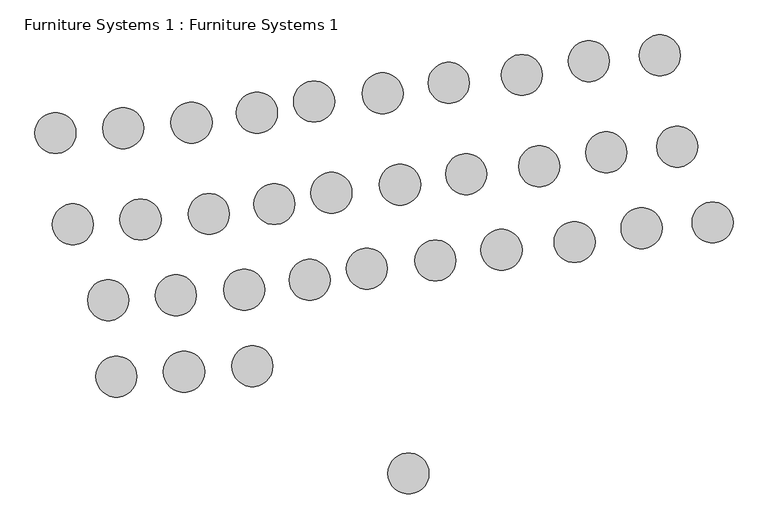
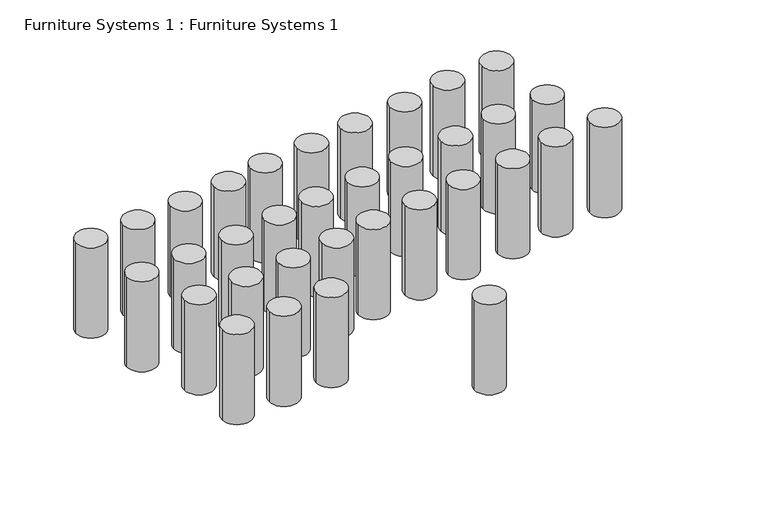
"""IFC4 building model written with IfcOpenShell, lengths in millimetres: furniture geometry, Furniture Systems 1 : Furniture Systems 1."""

import ifcopenshell
import ifcopenshell.guid

model = None  # the IFC model being written
_history = None  # IfcOwnerHistory: only IFC2X3 demands one
_inside = {}  # id of a spatial element -> (the spatial element, [elements in it])
_under = {}  # id of a project, library or spatial element -> (it, [spatial elements below it])
_declared = {}  # id of a project -> (the project, [libraries it declares])
_typed = {}  # id of a type object -> (the type object, [elements of that type])
_made_of = {}  # id of a material, layer set ... -> (it, [elements and type objects made of it])


def new_model(schema):
    """Start an empty IFC model of exactly this schema.

    Asked for "IFC4X3", IfcOpenShell would pick the latest addendum, in which some entities
    have other attributes; the version numbers below select the first issue.
    IFC2X3 requires an IfcOwnerHistory on every rooted entity: one is made here for all.
    """
    global model, _history
    if schema == "IFC4X3":
        model = ifcopenshell.file(schema_version=(4, 3, 0, 0))
    else:
        model = ifcopenshell.file(schema=schema)
    _inside.clear()
    _under.clear()
    _declared.clear()
    _typed.clear()
    _made_of.clear()
    _history = None
    if model.schema == "IFC2X3":
        org = make("IfcOrganization", Name="unknown")
        user = make(
            "IfcPersonAndOrganization",
            ThePerson=make("IfcPerson", FamilyName="unknown"),
            TheOrganization=org,
        )
        app = make(
            "IfcApplication",
            ApplicationDeveloper=org,
            Version="unknown",
            ApplicationFullName="unknown",
            ApplicationIdentifier="unknown",
        )
        _history = make(
            "IfcOwnerHistory",
            OwningUser=user,
            OwningApplication=app,
            ChangeAction="ADDED",
            CreationDate=0,
        )
    return model


def make(cls, **values):
    """One entity of the class cls with the attributes given. An attribute that is None is left unset."""
    return model.create_entity(
        cls, **{name: value for name, value in values.items() if value is not None}
    )


def rooted(cls, **values):
    """An entity with a GlobalId (a new one), such as an element, a storey or a relation."""
    return make(cls, GlobalId=ifcopenshell.guid.new(), OwnerHistory=_history, **values)


def si_unit(unit_type, name, prefix=None):
    """IfcSIUnit, for example si_unit("LENGTHUNIT", "METRE", prefix="MILLI")."""
    return make("IfcSIUnit", UnitType=unit_type, Prefix=prefix, Name=name)


def assignment(units):
    """IfcUnitAssignment: the units of a project."""
    return None if units is None else make("IfcUnitAssignment", Units=units)


def point(xyz):
    """IfcCartesianPoint."""
    return None if xyz is None else make("IfcCartesianPoint", Coordinates=xyz)


def direction(xyz):
    """IfcDirection."""
    return None if xyz is None else make("IfcDirection", DirectionRatios=xyz)


def frame(location, z_axis=None, x_axis=None):
    """IfcAxis2Placement3D, a coordinate frame: its origin and axes. An axis left out is left unset."""
    return make(
        "IfcAxis2Placement3D",
        Location=point(location),
        Axis=direction(z_axis),
        RefDirection=direction(x_axis),
    )


def frame_2d(location, x_axis=None):
    """IfcAxis2Placement2D, a coordinate frame in the plane: its origin and x axis."""
    return make(
        "IfcAxis2Placement2D", Location=point(location), RefDirection=direction(x_axis)
    )


def origin():
    """The frame at (0, 0, 0) with its axes left unset."""
    return frame((0.0, 0.0, 0.0))


def origin_with_axes():
    """The frame at (0, 0, 0) with the z axis (0, 0, 1) and the x axis (1, 0, 0) written out."""
    return frame((0.0, 0.0, 0.0), z_axis=(0.0, 0.0, 1.0), x_axis=(1.0, 0.0, 0.0))


def place(relative_to, where):
    """IfcLocalPlacement: puts the frame where relative to a parent placement (None: the world)."""
    return make(
        "IfcLocalPlacement", PlacementRelTo=relative_to, RelativePlacement=where
    )


def context(
    kind, dimensions, precision=None, world=None, true_north=None, identifier=None
):
    """IfcGeometricRepresentationContext, for example the 3D "Model" context."""
    return make(
        "IfcGeometricRepresentationContext",
        ContextIdentifier=identifier,
        ContextType=kind,
        CoordinateSpaceDimension=dimensions,
        Precision=precision,
        WorldCoordinateSystem=world,
        TrueNorth=true_north,
    )


def project(units=None, contexts=None):
    """IfcProject with its units and contexts."""
    return rooted(
        "IfcProject",
        Name="project",
        RepresentationContexts=contexts,
        UnitsInContext=assignment(units),
    )


def spatial(cls, under=None, at=None, **own):
    """A site, building, storey or space (cls), placed at a placement, below another one or the project."""
    s = rooted(cls, ObjectPlacement=at, **own)
    if under is not None:
        _under.setdefault(under.id(), (under, []))[1].append(s)
    return s


def circle_curve(where, radius):
    """IfcCircle in the frame where."""
    return make("IfcCircle", Position=where, Radius=radius)


def trimmed(basis, trim1, trim2, sense, master):
    """IfcTrimmedCurve: the piece of a basis curve between two trims."""
    return make(
        "IfcTrimmedCurve",
        BasisCurve=basis,
        Trim1=trim1,
        Trim2=trim2,
        SenseAgreement=sense,
        MasterRepresentation=master,
    )


def segment(curve, same_sense, transition):
    """IfcCompositeCurveSegment."""
    return make(
        "IfcCompositeCurveSegment",
        Transition=transition,
        SameSense=same_sense,
        ParentCurve=curve,
    )


def composite_curve(segments, self_intersect=None):
    """IfcCompositeCurve: segments joined end to end."""
    return make("IfcCompositeCurve", Segments=segments, SelfIntersect=self_intersect)


def outline(outer, holes=None, kind="AREA"):
    """IfcArbitraryClosedProfileDef: a profile drawn as a closed curve; with holes, ...WithVoids."""
    if holes is None:
        return make("IfcArbitraryClosedProfileDef", ProfileType=kind, OuterCurve=outer)
    return make(
        "IfcArbitraryProfileDefWithVoids",
        ProfileType=kind,
        OuterCurve=outer,
        InnerCurves=holes,
    )


def extrude(swept, where, along, depth):
    """IfcExtrudedAreaSolid: the profile swept, set in the frame where, extruded along a direction by depth."""
    return make(
        "IfcExtrudedAreaSolid",
        SweptArea=swept,
        Position=where,
        ExtrudedDirection=direction(along),
        Depth=depth,
    )


def shape(context_of_items, identifier, shape_type, items):
    """IfcShapeRepresentation: the items that make up one representation, for example the "Body"."""
    return make(
        "IfcShapeRepresentation",
        ContextOfItems=context_of_items,
        RepresentationIdentifier=identifier,
        RepresentationType=shape_type,
        Items=items,
    )


def source(mapping_origin, context_of_items, identifier, shape_type, items):
    """IfcRepresentationMap: a shape defined once, which mapped items show again and again."""
    return make(
        "IfcRepresentationMap",
        MappingOrigin=mapping_origin,
        MappedRepresentation=shape(context_of_items, identifier, shape_type, items),
    )


def transform(
    local_origin,
    x_axis=None,
    y_axis=None,
    z_axis=None,
    scale=None,
    scale2=None,
    scale3=None,
    uniform=True,
):
    """IfcCartesianTransformationOperator3D, or its non-uniform kind. x_axis, y_axis, z_axis: its Axis1, 2, 3."""
    if uniform:
        return make(
            "IfcCartesianTransformationOperator3D",
            Axis1=direction(x_axis),
            Axis2=direction(y_axis),
            LocalOrigin=point(local_origin),
            Scale=scale,
            Axis3=direction(z_axis),
        )
    return make(
        "IfcCartesianTransformationOperator3DnonUniform",
        Axis1=direction(x_axis),
        Axis2=direction(y_axis),
        LocalOrigin=point(local_origin),
        Scale=scale,
        Axis3=direction(z_axis),
        Scale2=scale2,
        Scale3=scale3,
    )


def mapped(mapping_source, mapping_target):
    """IfcMappedItem: shows the shape of a source again, moved by a transform."""
    return make(
        "IfcMappedItem", MappingSource=mapping_source, MappingTarget=mapping_target
    )


def made_of(thing, what):
    """Note that an element or type object is made of a material, layer set ...; save() writes the relation."""
    if what is not None:
        _made_of.setdefault(what.id(), (what, []))[1].append(thing)
    return thing


def element(
    cls,
    number,
    at=None,
    inside=None,
    cuts=None,
    type_object=None,
    material=None,
    context=None,
    identifier="Body",
    shape_type=None,
    held_by="IfcProductDefinitionShape",
    body=None,
    shapes=None,
    **own,
):
    """One element of the class cls, such as IfcWall. Its Tag is "e" and its number.

    at: its placement. inside: the storey or other place that contains it. cuts: it is an
    opening in that element (IfcRelVoidsElement). A single representation is given by context,
    identifier, shape_type and body (its items); several are given by shapes. held_by: the class
    of the entity that holds the representations. save() writes the other relations.
    """
    e = rooted(cls, Tag="e%d" % number, ObjectPlacement=at, **own)
    if body is not None:
        shapes = [shape(context, identifier, shape_type, body)]
    if shapes is not None:
        e.Representation = make(held_by, Representations=shapes)
    if inside is not None:
        _inside.setdefault(inside.id(), (inside, []))[1].append(e)
    if cuts is not None:
        rooted(
            "IfcRelVoidsElement", RelatingBuildingElement=cuts, RelatedOpeningElement=e
        )
    if type_object is not None:
        _typed.setdefault(type_object.id(), (type_object, []))[1].append(e)
    return made_of(e, material)


def aggregate(whole, parts):
    """IfcRelAggregates: a whole, such as a stair, and the parts it consists of."""
    return rooted("IfcRelAggregates", RelatingObject=whole, RelatedObjects=parts)


def save(model, path):
    """Write the relations noted so far, then the file.

    IfcRelAggregates (storeys below a building ...), IfcRelContainedInSpatialStructure (elements
    in a storey), IfcRelDefinesByType, IfcRelAssociatesMaterial and IfcRelDeclares: one each for
    every whole, place, type object, material and project.
    """
    for whole, parts in _under.values():
        aggregate(whole, parts)
    for where, things in _inside.values():
        rooted(
            "IfcRelContainedInSpatialStructure",
            RelatedElements=things,
            RelatingStructure=where,
        )
    for kind, things in _typed.values():
        rooted("IfcRelDefinesByType", RelatedObjects=things, RelatingType=kind)
    for what, things in _made_of.values():
        rooted("IfcRelAssociatesMaterial", RelatedObjects=things, RelatingMaterial=what)
    for by, libraries in _declared.values():
        rooted("IfcRelDeclares", RelatingContext=by, RelatedDefinitions=libraries)
    model.write(path)


def furniture_systems_1_furniture_systems_1_472282ec(model_context):
    return source(origin(), model_context, "Body", "SweptSolid", [
        extrude(outline(composite_curve([segment(trimmed(circle_curve(frame_2d((-5822.5054879, 595.2108195)), 177.8), [point((-6000.3054879, 595.2108195))], [point((-5644.7054879, 595.2108195))], False, "CARTESIAN"), True, "CONTINUOUS"), segment(trimmed(circle_curve(frame_2d((-5822.5054879, 595.2108195)), 177.8), [point((-5644.7054879, 595.2108195))], [point((-6000.3054879, 595.2108195))], False, "CARTESIAN"), True, "CONTINUOUS")], self_intersect=False)), origin_with_axes(), (0.0, 0.0, 1.0), 1138.8266738),
        extrude(outline(composite_curve([segment(trimmed(circle_curve(frame_2d((-7173.2621178, 1523.4665813)), 177.8), [point((-7351.0621178, 1523.4665813))], [point((-6995.4621178, 1523.4665813))], False, "CARTESIAN"), True, "CONTINUOUS"), segment(trimmed(circle_curve(frame_2d((-7173.2621178, 1523.4665813)), 177.8), [point((-6995.4621178, 1523.4665813))], [point((-7351.0621178, 1523.4665813))], False, "CARTESIAN"), True, "CONTINUOUS")], self_intersect=False)), origin_with_axes(), (0.0, 0.0, 1.0), 1138.8266738),
        extrude(outline(composite_curve([segment(trimmed(circle_curve(frame_2d((-7764.9644496, 1475.3818843)), 177.8), [point((-7942.7644496, 1475.3818843))], [point((-7587.1644496, 1475.3818843))], False, "CARTESIAN"), True, "CONTINUOUS"), segment(trimmed(circle_curve(frame_2d((-7764.9644496, 1475.3818843)), 177.8), [point((-7587.1644496, 1475.3818843))], [point((-7942.7644496, 1475.3818843))], False, "CARTESIAN"), True, "CONTINUOUS")], self_intersect=False)), origin_with_axes(), (0.0, 0.0, 1.0), 1138.8266738),
        extrude(outline(composite_curve([segment(trimmed(circle_curve(frame_2d((-8350.6310546, 1433.3329139)), 177.8), [point((-8528.4310546, 1433.3329139))], [point((-8172.8310546, 1433.3329139))], False, "CARTESIAN"), True, "CONTINUOUS"), segment(trimmed(circle_curve(frame_2d((-8350.6310546, 1433.3329139)), 177.8), [point((-8172.8310546, 1433.3329139))], [point((-8528.4310546, 1433.3329139))], False, "CARTESIAN"), True, "CONTINUOUS")], self_intersect=False)), origin_with_axes(), (0.0, 0.0, 1.0), 1138.8266738),
        extrude(outline(composite_curve([segment(trimmed(circle_curve(frame_2d((-3190.2941901, 2767.4379649)), 177.8), [point((-3368.0941901, 2767.4379649))], [point((-3012.4941901, 2767.4379649))], False, "CARTESIAN"), True, "CONTINUOUS"), segment(trimmed(circle_curve(frame_2d((-3190.2941901, 2767.4379649)), 177.8), [point((-3012.4941901, 2767.4379649))], [point((-3368.0941901, 2767.4379649))], False, "CARTESIAN"), True, "CONTINUOUS")], self_intersect=False)), origin_with_axes(), (0.0, 0.0, 1.0), 1138.8266738),
        extrude(outline(composite_curve([segment(trimmed(circle_curve(frame_2d((-3804.5221606, 2717.7359997)), 177.8), [point((-3982.3221606, 2717.7359997))], [point((-3626.7221606, 2717.7359997))], False, "CARTESIAN"), True, "CONTINUOUS"), segment(trimmed(circle_curve(frame_2d((-3804.5221606, 2717.7359997)), 177.8), [point((-3626.7221606, 2717.7359997))], [point((-3982.3221606, 2717.7359997))], False, "CARTESIAN"), True, "CONTINUOUS")], self_intersect=False)), origin_with_axes(), (0.0, 0.0, 1.0), 1138.8266738),
        extrude(outline(composite_curve([segment(trimmed(circle_curve(frame_2d((-4384.5863846, 2597.6559281)), 177.8), [point((-4562.3863846, 2597.6559281))], [point((-4206.7863846, 2597.6559281))], False, "CARTESIAN"), True, "CONTINUOUS"), segment(trimmed(circle_curve(frame_2d((-4384.5863846, 2597.6559281)), 177.8), [point((-4206.7863846, 2597.6559281))], [point((-4562.3863846, 2597.6559281))], False, "CARTESIAN"), True, "CONTINUOUS")], self_intersect=False)), origin_with_axes(), (0.0, 0.0, 1.0), 1138.8266738),
        extrude(outline(composite_curve([segment(trimmed(circle_curve(frame_2d((-5016.9215351, 2529.8467828)), 177.8), [point((-5194.7215351, 2529.8467828))], [point((-4839.1215351, 2529.8467828))], False, "CARTESIAN"), True, "CONTINUOUS"), segment(trimmed(circle_curve(frame_2d((-5016.9215351, 2529.8467828)), 177.8), [point((-4839.1215351, 2529.8467828))], [point((-5194.7215351, 2529.8467828))], False, "CARTESIAN"), True, "CONTINUOUS")], self_intersect=False)), origin_with_axes(), (0.0, 0.0, 1.0), 1138.8266738),
        extrude(outline(composite_curve([segment(trimmed(circle_curve(frame_2d((-5589.3327644, 2438.3280765)), 177.8), [point((-5767.1327644, 2438.3280765))], [point((-5411.5327644, 2438.3280765))], False, "CARTESIAN"), True, "CONTINUOUS"), segment(trimmed(circle_curve(frame_2d((-5589.3327644, 2438.3280765)), 177.8), [point((-5411.5327644, 2438.3280765))], [point((-5767.1327644, 2438.3280765))], False, "CARTESIAN"), True, "CONTINUOUS")], self_intersect=False)), origin_with_axes(), (0.0, 0.0, 1.0), 1138.8266738),
        extrude(outline(composite_curve([segment(trimmed(circle_curve(frame_2d((-6182.6523643, 2367.7177408)), 177.8), [point((-6360.4523643, 2367.7177408))], [point((-6004.8523643, 2367.7177408))], False, "CARTESIAN"), True, "CONTINUOUS"), segment(trimmed(circle_curve(frame_2d((-6182.6523643, 2367.7177408)), 177.8), [point((-6004.8523643, 2367.7177408))], [point((-6360.4523643, 2367.7177408))], False, "CARTESIAN"), True, "CONTINUOUS")], self_intersect=False)), origin_with_axes(), (0.0, 0.0, 1.0), 1138.8266738),
        extrude(outline(composite_curve([segment(trimmed(circle_curve(frame_2d((-6677.0324924, 2270.5966535)), 177.8), [point((-6854.8324924, 2270.5966535))], [point((-6499.2324924, 2270.5966535))], False, "CARTESIAN"), True, "CONTINUOUS"), segment(trimmed(circle_curve(frame_2d((-6677.0324924, 2270.5966535)), 177.8), [point((-6499.2324924, 2270.5966535))], [point((-6854.8324924, 2270.5966535))], False, "CARTESIAN"), True, "CONTINUOUS")], self_intersect=False)), origin_with_axes(), (0.0, 0.0, 1.0), 1138.8266738),
        extrude(outline(composite_curve([segment(trimmed(circle_curve(frame_2d((-7243.407995, 2185.1136739)), 177.8), [point((-7421.207995, 2185.1136739))], [point((-7065.607995, 2185.1136739))], False, "CARTESIAN"), True, "CONTINUOUS"), segment(trimmed(circle_curve(frame_2d((-7243.407995, 2185.1136739)), 177.8), [point((-7065.607995, 2185.1136739))], [point((-7421.207995, 2185.1136739))], False, "CARTESIAN"), True, "CONTINUOUS")], self_intersect=False)), origin_with_axes(), (0.0, 0.0, 1.0), 1138.8266738),
        extrude(outline(composite_curve([segment(trimmed(circle_curve(frame_2d((-7835.1103268, 2137.0289768)), 177.8), [point((-8012.9103268, 2137.0289768))], [point((-7657.3103268, 2137.0289768))], False, "CARTESIAN"), True, "CONTINUOUS"), segment(trimmed(circle_curve(frame_2d((-7835.1103268, 2137.0289768)), 177.8), [point((-7657.3103268, 2137.0289768))], [point((-8012.9103268, 2137.0289768))], False, "CARTESIAN"), True, "CONTINUOUS")], self_intersect=False)), origin_with_axes(), (0.0, 0.0, 1.0), 1138.8266738),
        extrude(outline(composite_curve([segment(trimmed(circle_curve(frame_2d((-8420.7769319, 2094.9800065)), 177.8), [point((-8598.5769319, 2094.9800065))], [point((-8242.9769319, 2094.9800065))], False, "CARTESIAN"), True, "CONTINUOUS"), segment(trimmed(circle_curve(frame_2d((-8420.7769319, 2094.9800065)), 177.8), [point((-8242.9769319, 2094.9800065))], [point((-8598.5769319, 2094.9800065))], False, "CARTESIAN"), True, "CONTINUOUS")], self_intersect=False)), origin_with_axes(), (0.0, 0.0, 1.0), 1138.8266738),
        extrude(outline(composite_curve([segment(trimmed(circle_curve(frame_2d((-3496.1506392, 3423.3665618)), 177.8), [point((-3673.9506392, 3423.3665618))], [point((-3318.3506392, 3423.3665618))], False, "CARTESIAN"), True, "CONTINUOUS"), segment(trimmed(circle_curve(frame_2d((-3496.1506392, 3423.3665618)), 177.8), [point((-3318.3506392, 3423.3665618))], [point((-3673.9506392, 3423.3665618))], False, "CARTESIAN"), True, "CONTINUOUS")], self_intersect=False)), origin_with_axes(), (0.0, 0.0, 1.0), 1138.8266738),
        extrude(outline(composite_curve([segment(trimmed(circle_curve(frame_2d((-4110.3786096, 3373.6645966)), 177.8), [point((-4288.1786096, 3373.6645966))], [point((-3932.5786096, 3373.6645966))], False, "CARTESIAN"), True, "CONTINUOUS"), segment(trimmed(circle_curve(frame_2d((-4110.3786096, 3373.6645966)), 177.8), [point((-3932.5786096, 3373.6645966))], [point((-4288.1786096, 3373.6645966))], False, "CARTESIAN"), True, "CONTINUOUS")], self_intersect=False)), origin_with_axes(), (0.0, 0.0, 1.0), 1138.8266738),
        extrude(outline(composite_curve([segment(trimmed(circle_curve(frame_2d((-4690.4428337, 3253.584525)), 177.8), [point((-4868.2428337, 3253.584525))], [point((-4512.6428337, 3253.584525))], False, "CARTESIAN"), True, "CONTINUOUS"), segment(trimmed(circle_curve(frame_2d((-4690.4428337, 3253.584525)), 177.8), [point((-4512.6428337, 3253.584525))], [point((-4868.2428337, 3253.584525))], False, "CARTESIAN"), True, "CONTINUOUS")], self_intersect=False)), origin_with_axes(), (0.0, 0.0, 1.0), 1138.8266738),
        extrude(outline(composite_curve([segment(trimmed(circle_curve(frame_2d((-5322.7779842, 3185.7753798)), 177.8), [point((-5500.5779842, 3185.7753798))], [point((-5144.9779842, 3185.7753798))], False, "CARTESIAN"), True, "CONTINUOUS"), segment(trimmed(circle_curve(frame_2d((-5322.7779842, 3185.7753798)), 177.8), [point((-5144.9779842, 3185.7753798))], [point((-5500.5779842, 3185.7753798))], False, "CARTESIAN"), True, "CONTINUOUS")], self_intersect=False)), origin_with_axes(), (0.0, 0.0, 1.0), 1138.8266738),
        extrude(outline(composite_curve([segment(trimmed(circle_curve(frame_2d((-5895.1892135, 3094.2566735)), 177.8), [point((-6072.9892135, 3094.2566735))], [point((-5717.3892135, 3094.2566735))], False, "CARTESIAN"), True, "CONTINUOUS"), segment(trimmed(circle_curve(frame_2d((-5895.1892135, 3094.2566735)), 177.8), [point((-5717.3892135, 3094.2566735))], [point((-6072.9892135, 3094.2566735))], False, "CARTESIAN"), True, "CONTINUOUS")], self_intersect=False)), origin_with_axes(), (0.0, 0.0, 1.0), 1138.8266738),
        extrude(outline(composite_curve([segment(trimmed(circle_curve(frame_2d((-6488.5088134, 3023.6463378)), 177.8), [point((-6666.3088134, 3023.6463378))], [point((-6310.7088134, 3023.6463378))], False, "CARTESIAN"), True, "CONTINUOUS"), segment(trimmed(circle_curve(frame_2d((-6488.5088134, 3023.6463378)), 177.8), [point((-6310.7088134, 3023.6463378))], [point((-6666.3088134, 3023.6463378))], False, "CARTESIAN"), True, "CONTINUOUS")], self_intersect=False)), origin_with_axes(), (0.0, 0.0, 1.0), 1138.8266738),
        extrude(outline(composite_curve([segment(trimmed(circle_curve(frame_2d((-6982.8889415, 2926.5252505)), 177.8), [point((-7160.6889415, 2926.5252505))], [point((-6805.0889415, 2926.5252505))], False, "CARTESIAN"), True, "CONTINUOUS"), segment(trimmed(circle_curve(frame_2d((-6982.8889415, 2926.5252505)), 177.8), [point((-6805.0889415, 2926.5252505))], [point((-7160.6889415, 2926.5252505))], False, "CARTESIAN"), True, "CONTINUOUS")], self_intersect=False)), origin_with_axes(), (0.0, 0.0, 1.0), 1138.8266738),
        extrude(outline(composite_curve([segment(trimmed(circle_curve(frame_2d((-7549.2644441, 2841.0422709)), 177.8), [point((-7727.0644441, 2841.0422709))], [point((-7371.4644441, 2841.0422709))], False, "CARTESIAN"), True, "CONTINUOUS"), segment(trimmed(circle_curve(frame_2d((-7549.2644441, 2841.0422709)), 177.8), [point((-7371.4644441, 2841.0422709))], [point((-7727.0644441, 2841.0422709))], False, "CARTESIAN"), True, "CONTINUOUS")], self_intersect=False)), origin_with_axes(), (0.0, 0.0, 1.0), 1138.8266738),
        extrude(outline(composite_curve([segment(trimmed(circle_curve(frame_2d((-8140.9667759, 2792.9575738)), 177.8), [point((-8318.7667759, 2792.9575738))], [point((-7963.1667759, 2792.9575738))], False, "CARTESIAN"), True, "CONTINUOUS"), segment(trimmed(circle_curve(frame_2d((-8140.9667759, 2792.9575738)), 177.8), [point((-7963.1667759, 2792.9575738))], [point((-8318.7667759, 2792.9575738))], False, "CARTESIAN"), True, "CONTINUOUS")], self_intersect=False)), origin_with_axes(), (0.0, 0.0, 1.0), 1138.8266738),
        extrude(outline(composite_curve([segment(trimmed(circle_curve(frame_2d((-8726.633381, 2750.9086034)), 177.8), [point((-8904.433381, 2750.9086034))], [point((-8548.833381, 2750.9086034))], False, "CARTESIAN"), True, "CONTINUOUS"), segment(trimmed(circle_curve(frame_2d((-8726.633381, 2750.9086034)), 177.8), [point((-8548.833381, 2750.9086034))], [point((-8904.433381, 2750.9086034))], False, "CARTESIAN"), True, "CONTINUOUS")], self_intersect=False)), origin_with_axes(), (0.0, 0.0, 1.0), 1138.8266738),
        extrude(outline(composite_curve([segment(trimmed(circle_curve(frame_2d((-3646.6954625, 4213.698414)), 177.8), [point((-3824.4954625, 4213.698414))], [point((-3468.8954625, 4213.698414))], False, "CARTESIAN"), True, "CONTINUOUS"), segment(trimmed(circle_curve(frame_2d((-3646.6954625, 4213.698414)), 177.8), [point((-3468.8954625, 4213.698414))], [point((-3824.4954625, 4213.698414))], False, "CARTESIAN"), True, "CONTINUOUS")], self_intersect=False)), origin_with_axes(), (0.0, 0.0, 1.0), 1138.8266738),
        extrude(outline(composite_curve([segment(trimmed(circle_curve(frame_2d((-4260.9234329, 4163.9964488)), 177.8), [point((-4438.7234329, 4163.9964488))], [point((-4083.1234329, 4163.9964488))], False, "CARTESIAN"), True, "CONTINUOUS"), segment(trimmed(circle_curve(frame_2d((-4260.9234329, 4163.9964488)), 177.8), [point((-4083.1234329, 4163.9964488))], [point((-4438.7234329, 4163.9964488))], False, "CARTESIAN"), True, "CONTINUOUS")], self_intersect=False)), origin_with_axes(), (0.0, 0.0, 1.0), 1138.8266738),
        extrude(outline(composite_curve([segment(trimmed(circle_curve(frame_2d((-4840.987657, 4043.9163772)), 177.8), [point((-5018.787657, 4043.9163772))], [point((-4663.187657, 4043.9163772))], False, "CARTESIAN"), True, "CONTINUOUS"), segment(trimmed(circle_curve(frame_2d((-4840.987657, 4043.9163772)), 177.8), [point((-4663.187657, 4043.9163772))], [point((-5018.787657, 4043.9163772))], False, "CARTESIAN"), True, "CONTINUOUS")], self_intersect=False)), origin_with_axes(), (0.0, 0.0, 1.0), 1138.8266738),
        extrude(outline(composite_curve([segment(trimmed(circle_curve(frame_2d((-5473.3228075, 3976.1072319)), 177.8), [point((-5651.1228075, 3976.1072319))], [point((-5295.5228075, 3976.1072319))], False, "CARTESIAN"), True, "CONTINUOUS"), segment(trimmed(circle_curve(frame_2d((-5473.3228075, 3976.1072319)), 177.8), [point((-5295.5228075, 3976.1072319))], [point((-5651.1228075, 3976.1072319))], False, "CARTESIAN"), True, "CONTINUOUS")], self_intersect=False)), origin_with_axes(), (0.0, 0.0, 1.0), 1138.8266738),
        extrude(outline(composite_curve([segment(trimmed(circle_curve(frame_2d((-6045.7340368, 3884.5885256)), 177.8), [point((-6223.5340368, 3884.5885256))], [point((-5867.9340368, 3884.5885256))], False, "CARTESIAN"), True, "CONTINUOUS"), segment(trimmed(circle_curve(frame_2d((-6045.7340368, 3884.5885256)), 177.8), [point((-5867.9340368, 3884.5885256))], [point((-6223.5340368, 3884.5885256))], False, "CARTESIAN"), True, "CONTINUOUS")], self_intersect=False)), origin_with_axes(), (0.0, 0.0, 1.0), 1138.8266738),
        extrude(outline(composite_curve([segment(trimmed(circle_curve(frame_2d((-6639.0536367, 3813.9781899)), 177.8), [point((-6816.8536367, 3813.9781899))], [point((-6461.2536367, 3813.9781899))], False, "CARTESIAN"), True, "CONTINUOUS"), segment(trimmed(circle_curve(frame_2d((-6639.0536367, 3813.9781899)), 177.8), [point((-6461.2536367, 3813.9781899))], [point((-6816.8536367, 3813.9781899))], False, "CARTESIAN"), True, "CONTINUOUS")], self_intersect=False)), origin_with_axes(), (0.0, 0.0, 1.0), 1138.8266738),
        extrude(outline(composite_curve([segment(trimmed(circle_curve(frame_2d((-7133.4337648, 3716.8571026)), 177.8), [point((-7311.2337648, 3716.8571026))], [point((-6955.6337648, 3716.8571026))], False, "CARTESIAN"), True, "CONTINUOUS"), segment(trimmed(circle_curve(frame_2d((-7133.4337648, 3716.8571026)), 177.8), [point((-6955.6337648, 3716.8571026))], [point((-7311.2337648, 3716.8571026))], False, "CARTESIAN"), True, "CONTINUOUS")], self_intersect=False)), origin_with_axes(), (0.0, 0.0, 1.0), 1138.8266738),
        extrude(outline(composite_curve([segment(trimmed(circle_curve(frame_2d((-7699.8092674, 3631.374123)), 177.8), [point((-7877.6092674, 3631.374123))], [point((-7522.0092674, 3631.374123))], False, "CARTESIAN"), True, "CONTINUOUS"), segment(trimmed(circle_curve(frame_2d((-7699.8092674, 3631.374123)), 177.8), [point((-7522.0092674, 3631.374123))], [point((-7877.6092674, 3631.374123))], False, "CARTESIAN"), True, "CONTINUOUS")], self_intersect=False)), origin_with_axes(), (0.0, 0.0, 1.0), 1138.8266738),
        extrude(outline(composite_curve([segment(trimmed(circle_curve(frame_2d((-8291.5115992, 3583.2894259)), 177.8), [point((-8469.3115992, 3583.2894259))], [point((-8113.7115992, 3583.2894259))], False, "CARTESIAN"), True, "CONTINUOUS"), segment(trimmed(circle_curve(frame_2d((-8291.5115992, 3583.2894259)), 177.8), [point((-8113.7115992, 3583.2894259))], [point((-8469.3115992, 3583.2894259))], False, "CARTESIAN"), True, "CONTINUOUS")], self_intersect=False)), origin_with_axes(), (0.0, 0.0, 1.0), 1138.8266738),
        extrude(outline(composite_curve([segment(trimmed(circle_curve(frame_2d((-8877.1782043, 3541.2404556)), 177.8), [point((-9054.9782043, 3541.2404556))], [point((-8699.3782043, 3541.2404556))], False, "CARTESIAN"), True, "CONTINUOUS"), segment(trimmed(circle_curve(frame_2d((-8877.1782043, 3541.2404556)), 177.8), [point((-8699.3782043, 3541.2404556))], [point((-9054.9782043, 3541.2404556))], False, "CARTESIAN"), True, "CONTINUOUS")], self_intersect=False)), origin_with_axes(), (0.0, 0.0, 1.0), 1138.8266738),
    ])


if __name__ == "__main__":
    model = new_model("IFC4")
    model_context = context("Model", 3, world=origin())
    ifc_project = project(units=[si_unit("LENGTHUNIT", "METRE", prefix="MILLI")], contexts=[model_context])
    site = spatial("IfcSite", under=ifc_project)
    building = spatial("IfcBuilding", under=site)
    placement = place(None, origin())
    furniture_systems_1_furniture_systems_1_shape = furniture_systems_1_furniture_systems_1_472282ec(model_context)
    element("IfcFurniture", 1, ObjectType="Furniture Systems 1 : Furniture Systems 1", at=placement, inside=building, context=model_context, shape_type="MappedRepresentation", body=[
        mapped(furniture_systems_1_furniture_systems_1_shape, transform((0.0, 0.0, 0.0), x_axis=(1.0, 0.0, 0.0), y_axis=(0.0, 1.0, 0.0), z_axis=(0.0, 0.0, 1.0))),
    ])
    save(model, "model.ifc")
